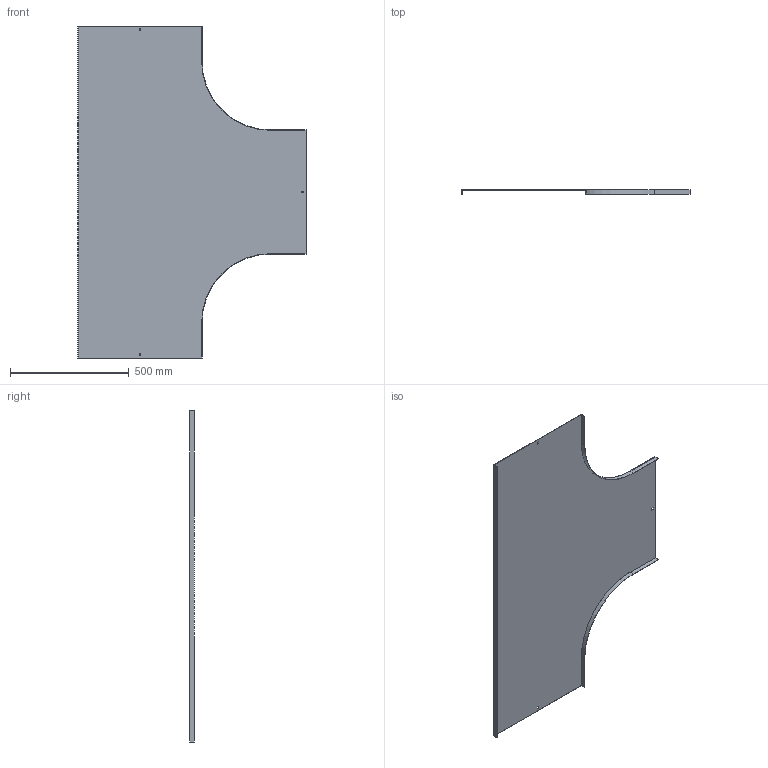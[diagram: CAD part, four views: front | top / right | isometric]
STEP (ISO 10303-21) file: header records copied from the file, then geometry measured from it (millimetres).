
FILE_DESCRIPTION (( 'STEP AP214' ), '1' );
FILE_NAME ('15N3P500.step', '2025-02-21T13:55:48', ( '' ), ( '' ), 'SwSTEP 2.0', 'SolidWorks 2023', '' );
FILE_SCHEMA (( 'AUTOMOTIVE_DESIGN' ));
Length unit declared in the file: millimetre
Products named in the file (1): 15N3P500
Bounding box: 961.5 x 20 x 1400 mm (x, y, z)
Volume: 1576342 mm3; surface area: 2108808.3 mm2
Topology: 1 solids, 1 shells, 34 faces, 96 edges, 64 vertices
Faces by surface type: plane 30, cylinder 4
Entity records: 1123 total; most frequent: CARTESIAN_POINT 195, ORIENTED_EDGE 192, DIRECTION 174, EDGE_CURVE 96, LINE 88, VECTOR 88, VERTEX_POINT 64, AXIS2_PLACEMENT_3D 43
